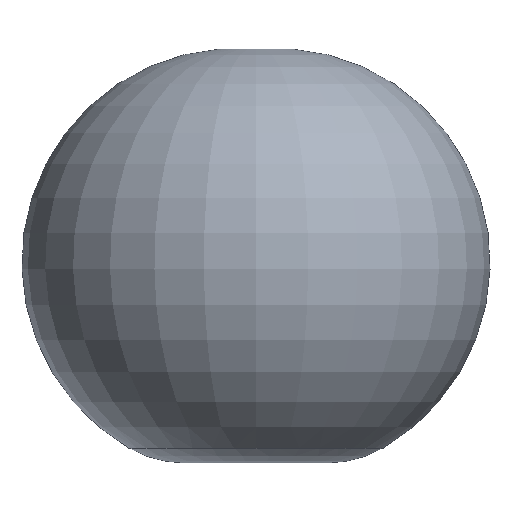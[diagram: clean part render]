
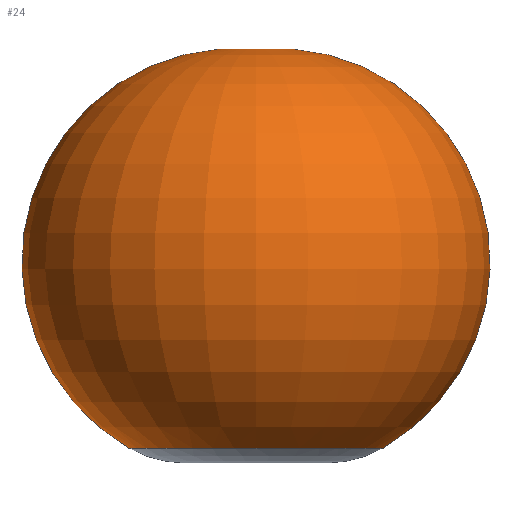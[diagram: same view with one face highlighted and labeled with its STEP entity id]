
A CAD part, front view. The second image highlights one B-rep face of the part: STEP entity #24.
In plain terms, the highlighted toroidal (fillet/blend) face has major radius 175 mm and minor radius 1876 mm.
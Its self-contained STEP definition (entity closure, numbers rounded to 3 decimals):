
#4 = AXIS2_PLACEMENT_3D ( 'NONE', #137, #203, #165 ) ;
#8 = VERTEX_POINT ( 'NONE', #15 ) ;
#15 = CARTESIAN_POINT ( 'NONE',  ( 1113., 0., -1129.664 ) ) ;
#19 = CARTESIAN_POINT ( 'NONE',  ( -175., 0., 495. ) ) ;
#20 = DIRECTION ( 'NONE',  ( 0., -1., 0. ) ) ;
#24 = ADVANCED_FACE ( 'NONE', ( #148 ), #107, .T. ) ;
#37 = DIRECTION ( 'NONE',  ( -1., 0., 0. ) ) ;
#53 = CARTESIAN_POINT ( 'NONE',  ( 0., 0., 2362.82 ) ) ;
#57 = AXIS2_PLACEMENT_3D ( 'NONE', #66, #162, #113 ) ;
#61 = AXIS2_PLACEMENT_3D ( 'NONE', #19, #68, #37 ) ;
#66 = CARTESIAN_POINT ( 'NONE',  ( 0., 0., 495. ) ) ;
#68 = DIRECTION ( 'NONE',  ( 0., 1., 0. ) ) ;
#74 = CIRCLE ( 'NONE', #4, 1113. ) ;
#76 = ORIENTED_EDGE ( 'NONE', *, *, #201, .F. ) ;
#87 = EDGE_CURVE ( 'NONE', #8, #188, #142, .T. ) ;
#104 = CARTESIAN_POINT ( 'NONE',  ( 175., 0., 495. ) ) ;
#107 = TOROIDAL_SURFACE ( 'NONE', #57, 175., 1876. ) ;
#108 = CIRCLE ( 'NONE', #61, 1876. ) ;
#113 = DIRECTION ( 'NONE',  ( 1., 0., 0. ) ) ;
#125 = VERTEX_POINT ( 'NONE', #181 ) ;
#131 = AXIS2_PLACEMENT_3D ( 'NONE', #104, #20, #152 ) ;
#133 = EDGE_CURVE ( 'NONE', #125, #8, #74, .T. ) ;
#137 = CARTESIAN_POINT ( 'NONE',  ( 0., 0., -1129.664 ) ) ;
#142 = CIRCLE ( 'NONE', #131, 1876. ) ;
#148 = FACE_OUTER_BOUND ( 'NONE', #175, .T. ) ;
#152 = DIRECTION ( 'NONE',  ( 0., 0., -1. ) ) ;
#162 = DIRECTION ( 'NONE',  ( 0., 0., 1. ) ) ;
#165 = DIRECTION ( 'NONE',  ( 1., 0., 0. ) ) ;
#174 = ORIENTED_EDGE ( 'NONE', *, *, #87, .T. ) ;
#175 = EDGE_LOOP ( 'NONE', ( #76, #178, #174 ) ) ;
#178 = ORIENTED_EDGE ( 'NONE', *, *, #133, .T. ) ;
#181 = CARTESIAN_POINT ( 'NONE',  ( -1113., 0., -1129.664 ) ) ;
#188 = VERTEX_POINT ( 'NONE', #53 ) ;
#201 = EDGE_CURVE ( 'NONE', #125, #188, #108, .T. ) ;
#203 = DIRECTION ( 'NONE',  ( 0., 0., 1. ) ) ;
